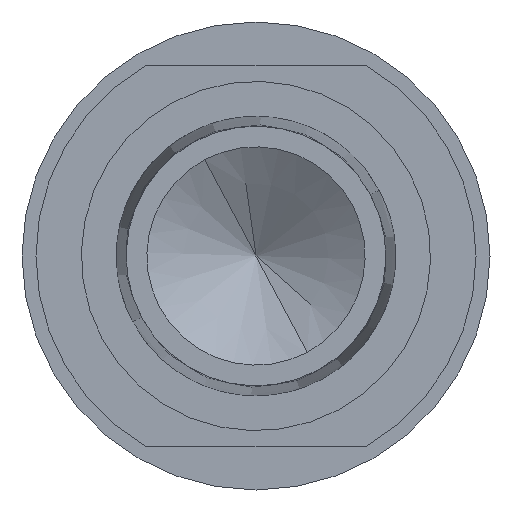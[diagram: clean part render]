
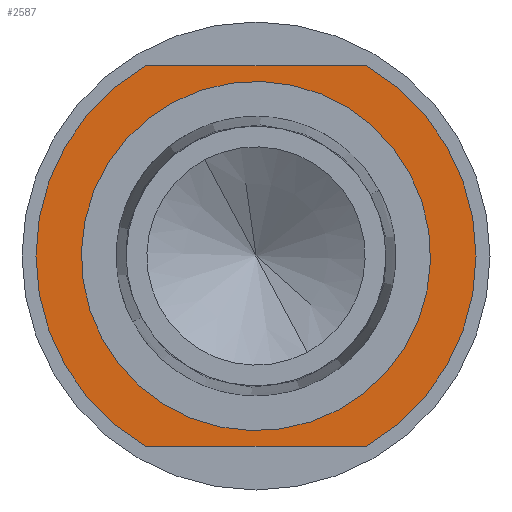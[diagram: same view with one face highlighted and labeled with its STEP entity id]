
A CAD part, left-side view. The second image highlights one B-rep face of the part: STEP entity #2587.
In plain terms, the highlighted planar face has unit normal (-1, 0, 0).
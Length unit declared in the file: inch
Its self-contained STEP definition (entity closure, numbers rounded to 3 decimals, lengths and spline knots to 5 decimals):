
#36 = CARTESIAN_POINT ( 'NONE',  ( -1.5935, -0.15802, 0.2725 ) ) ;
#37 = EDGE_CURVE ( 'NONE', #620, #1873, #2112, .T. ) ;
#75 = DIRECTION ( 'NONE',  ( 0., 1., 0. ) ) ;
#152 = EDGE_LOOP ( 'NONE', ( #801, #443 ) ) ;
#182 = VERTEX_POINT ( 'NONE', #335 ) ;
#207 = LINE ( 'NONE', #2442, #2421 ) ;
#305 = CIRCLE ( 'NONE', #1000, 0.315 ) ;
#335 = CARTESIAN_POINT ( 'NONE',  ( -1.5935, 0.315, 0. ) ) ;
#371 = CARTESIAN_POINT ( 'NONE',  ( -1.5935, 0., 0. ) ) ;
#389 = DIRECTION ( 'NONE',  ( 0., 1., 0. ) ) ;
#429 = VERTEX_POINT ( 'NONE', #1385 ) ;
#443 = ORIENTED_EDGE ( 'NONE', *, *, #1081, .T. ) ;
#463 = VECTOR ( 'NONE', #389, 39.37008 ) ;
#520 = DIRECTION ( 'NONE',  ( 0., -1., 0. ) ) ;
#547 = EDGE_CURVE ( 'NONE', #825, #429, #895, .T. ) ;
#567 = EDGE_CURVE ( 'NONE', #429, #2369, #1393, .T. ) ;
#581 = DIRECTION ( 'NONE',  ( 0., 1., 0. ) ) ;
#582 = CARTESIAN_POINT ( 'NONE',  ( -1.5935, 0., 0. ) ) ;
#584 = EDGE_LOOP ( 'NONE', ( #1320, #2276, #2515, #2580, #1232 ) ) ;
#620 = VERTEX_POINT ( 'NONE', #1047 ) ;
#712 = DIRECTION ( 'NONE',  ( 1., 0., 0. ) ) ;
#801 = ORIENTED_EDGE ( 'NONE', *, *, #37, .T. ) ;
#802 = CARTESIAN_POINT ( 'NONE',  ( -1.5935, 0.315, -0.2725 ) ) ;
#804 = DIRECTION ( 'NONE',  ( 0., 1., 0. ) ) ;
#825 = VERTEX_POINT ( 'NONE', #36 ) ;
#895 = CIRCLE ( 'NONE', #1752, 0.315 ) ;
#1000 = AXIS2_PLACEMENT_3D ( 'NONE', #582, #2093, #804 ) ;
#1047 = CARTESIAN_POINT ( 'NONE',  ( -1.5935, 0.145, 0. ) ) ;
#1048 = CARTESIAN_POINT ( 'NONE',  ( -1.5935, 0.315, 0. ) ) ;
#1081 = EDGE_CURVE ( 'NONE', #1873, #620, #2416, .T. ) ;
#1107 = FACE_OUTER_BOUND ( 'NONE', #584, .T. ) ;
#1169 = FACE_BOUND ( 'NONE', #152, .T. ) ;
#1182 = CARTESIAN_POINT ( 'NONE',  ( -1.5935, 0.15802, -0.2725 ) ) ;
#1196 = VERTEX_POINT ( 'NONE', #2056 ) ;
#1232 = ORIENTED_EDGE ( 'NONE', *, *, #1289, .F. ) ;
#1275 = DIRECTION ( 'NONE',  ( 1., 0., 0. ) ) ;
#1279 = AXIS2_PLACEMENT_3D ( 'NONE', #1048, #1907, #2765 ) ;
#1289 = EDGE_CURVE ( 'NONE', #2369, #182, #305, .T. ) ;
#1320 = ORIENTED_EDGE ( 'NONE', *, *, #567, .F. ) ;
#1357 = DIRECTION ( 'NONE',  ( 1., 0., 0. ) ) ;
#1385 = CARTESIAN_POINT ( 'NONE',  ( -1.5935, -0.15802, -0.2725 ) ) ;
#1393 = LINE ( 'NONE', #802, #463 ) ;
#1422 = AXIS2_PLACEMENT_3D ( 'NONE', #1998, #712, #2211 ) ;
#1530 = CARTESIAN_POINT ( 'NONE',  ( -1.5935, -0.145, 0. ) ) ;
#1573 = AXIS2_PLACEMENT_3D ( 'NONE', #2578, #1275, #2786 ) ;
#1752 = AXIS2_PLACEMENT_3D ( 'NONE', #371, #1870, #581 ) ;
#1870 = DIRECTION ( 'NONE',  ( 1., 0., 0. ) ) ;
#1873 = VERTEX_POINT ( 'NONE', #1530 ) ;
#1907 = DIRECTION ( 'NONE',  ( -1., 0., 0. ) ) ;
#1927 = AXIS2_PLACEMENT_3D ( 'NONE', #2655, #1357, #75 ) ;
#1998 = CARTESIAN_POINT ( 'NONE',  ( -1.5935, 0., 0. ) ) ;
#2056 = CARTESIAN_POINT ( 'NONE',  ( -1.5935, 0.15802, 0.2725 ) ) ;
#2093 = DIRECTION ( 'NONE',  ( 1., 0., 0. ) ) ;
#2112 = CIRCLE ( 'NONE', #1422, 0.145 ) ;
#2211 = DIRECTION ( 'NONE',  ( 0., 1., 0. ) ) ;
#2276 = ORIENTED_EDGE ( 'NONE', *, *, #547, .F. ) ;
#2285 = EDGE_CURVE ( 'NONE', #1196, #825, #207, .T. ) ;
#2330 = PLANE ( 'NONE',  #1279 ) ;
#2369 = VERTEX_POINT ( 'NONE', #1182 ) ;
#2416 = CIRCLE ( 'NONE', #1927, 0.145 ) ;
#2421 = VECTOR ( 'NONE', #520, 39.37008 ) ;
#2442 = CARTESIAN_POINT ( 'NONE',  ( -1.5935, 0.315, 0.2725 ) ) ;
#2515 = ORIENTED_EDGE ( 'NONE', *, *, #2285, .F. ) ;
#2578 = CARTESIAN_POINT ( 'NONE',  ( -1.5935, 0., 0. ) ) ;
#2580 = ORIENTED_EDGE ( 'NONE', *, *, #2637, .F. ) ;
#2587 = ADVANCED_FACE ( 'NONE', ( #1107, #1169 ), #2330, .T. ) ;
#2637 = EDGE_CURVE ( 'NONE', #182, #1196, #2691, .T. ) ;
#2655 = CARTESIAN_POINT ( 'NONE',  ( -1.5935, 0., 0. ) ) ;
#2691 = CIRCLE ( 'NONE', #1573, 0.315 ) ;
#2765 = DIRECTION ( 'NONE',  ( 0., -1., 0. ) ) ;
#2786 = DIRECTION ( 'NONE',  ( 0., 1., 0. ) ) ;
